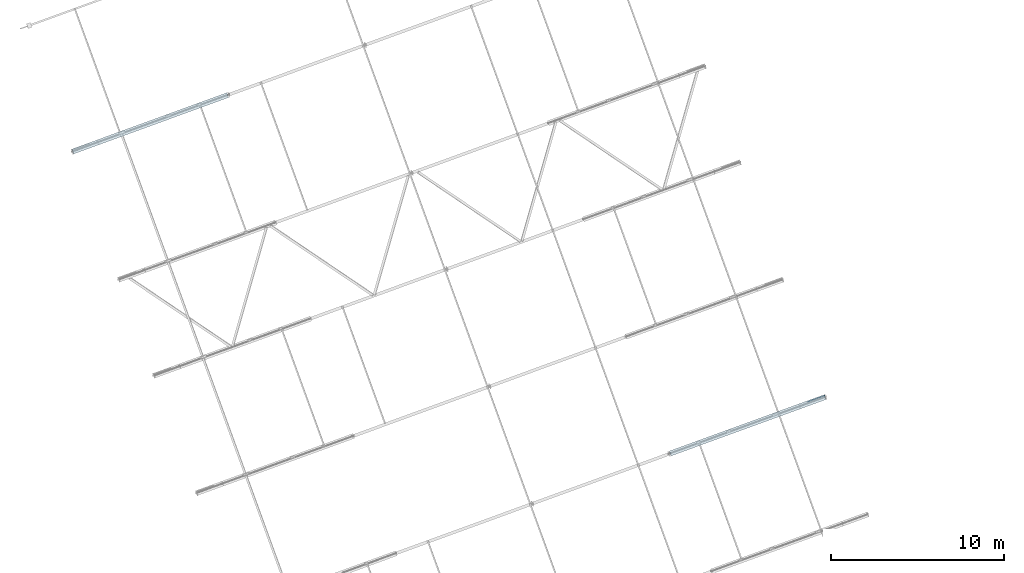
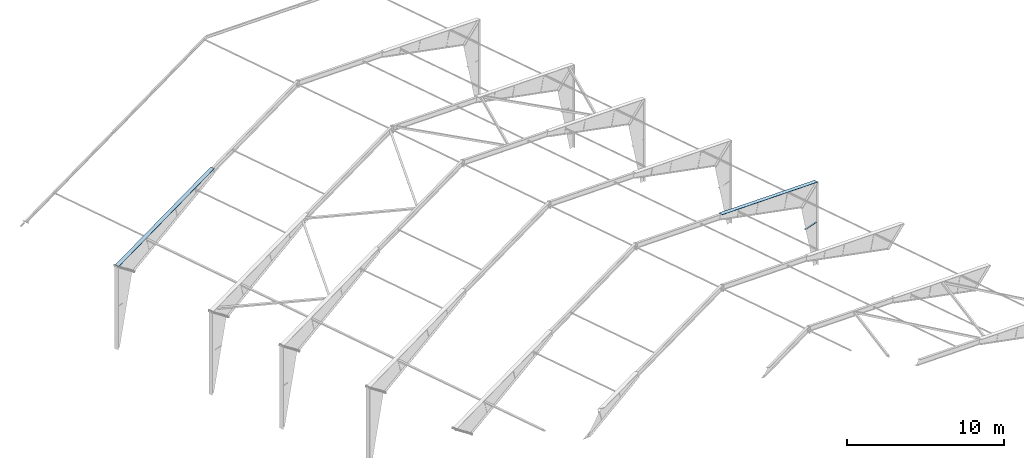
# One storey, part 13 of 17: 3 plates, 3 elements without a shape of their own.
"""IFC4 building model written with IfcOpenShell, lengths in millimetres."""

from ifc_helpers import new_model, si_unit, direction, frame, origin_with_axes, place, context, subcontext, project, spatial, polygons, material, element, aggregate, save


model = new_model("IFC4")

# Units and contexts
model_context = context("Model", 3, precision=0.2, world=frame((203566.813, 116264.779, 0.0), z_axis=(0.0, 0.0, 1.0), x_axis=(1.0, 0.0, 0.0)), true_north=direction((-0.9396138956, -0.3422363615)))
body_context = subcontext(model_context, "Body", "Model", "MODEL_VIEW")
ifc_project = project(units=[si_unit("LENGTHUNIT", "METRE", prefix="MILLI"), si_unit("AREAUNIT", "SQUARE_METRE"), si_unit("VOLUMEUNIT", "CUBIC_METRE"), si_unit("MASSUNIT", "GRAM", prefix="KILO"), si_unit("TIMEUNIT", "SECOND"), si_unit("PLANEANGLEUNIT", "RADIAN"), si_unit("SOLIDANGLEUNIT", "STERADIAN"), si_unit("THERMODYNAMICTEMPERATUREUNIT", "DEGREE_CELSIUS"), si_unit("LUMINOUSINTENSITYUNIT", "LUMEN")], contexts=[model_context])

# Site, building, storey
site_placement = place(None, origin_with_axes())
site = spatial("IfcSite", under=ifc_project, at=site_placement, Name="Nobelprojektet", CompositionType="ELEMENT")
building_placement = place(site_placement, origin_with_axes())
building = spatial("IfcBuilding", under=site, at=building_placement, Name="Hall B", CompositionType="ELEMENT")
storey_placement = place(building_placement, frame((0.0, 0.0, 136000.0), z_axis=(0.0, 0.0, 1.0), x_axis=(1.0, 0.0, 0.0)))
storey = spatial("IfcBuildingStorey", under=building, at=storey_placement, Name="Plan_2", CompositionType="ELEMENT", Elevation=136000.0)

# Assembly, plate
assembly_1_placement = place(storey_placement, frame((131023.48887, 166432.38903, 3682.47747), z_axis=(0.2431885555, 0.0885769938, -0.9659262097), x_axis=(0.9075966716, 0.3305755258, 0.2588206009)))
assembly_1 = element("IfcElementAssembly", 1, at=assembly_1_placement, inside=storey, Name="BEF. STOMME", PredefinedType="NOTDEFINED")
ifc_material = material(Name="S355J2", Category="STEEL")
plate_1_placement = place(assembly_1_placement, frame((9833.15093, 0.0, 0.0), z_axis=(-1.0, 0.0, 0.0), x_axis=(0.0, 0.0, 1.0)))
plate_1 = element("IfcPlate", 2, at=plate_1_placement, material=ifc_material, Name="BEF. STOMME", PredefinedType="NOTDEFINED", context=body_context, shape_type="Tessellation", body=[
    polygons([(-10.0, -149.99999, 9833.15093), (-10.0, 150.00001, 9833.15093), (-10.0, 150.0, 0.0), (-10.0, -150.0, 0.0), (10.0, 150.00001, 9833.15093), (10.0, 150.0, 0.0), (10.0, -149.99999, 9833.15093), (10.0, -150.0, 0.0)], [[[1, 2, 3, 4]], [[2, 5, 6, 3]], [[5, 7, 8, 6]], [[7, 1, 4, 8]], [[6, 8, 4, 3]], [[7, 5, 2, 1]]], closed=True),
])
aggregate(assembly_1, [plate_1])

assembly_2_placement = place(storey_placement, frame((174393.65841, 152270.0591, 3682.47528), z_axis=(0.2431885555, 0.0885769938, 0.9659262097), x_axis=(-0.9075966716, -0.3305755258, 0.2588206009)))
assembly_2 = element("IfcElementAssembly", 3, at=assembly_2_placement, inside=storey, Name="BEF. STOMME", PredefinedType="NOTDEFINED")
plate_2_placement = place(assembly_2_placement, frame((9833.15093, 0.0, 0.0), z_axis=(-1.0, 0.0, 0.0), x_axis=(0.0, 0.0, 1.0)))
plate_2 = element("IfcPlate", 4, at=plate_2_placement, material=ifc_material, Name="BEF. STOMME", PredefinedType="NOTDEFINED", context=body_context, shape_type="Tessellation", body=[
    polygons([(-10.0, -150.00001, 9833.15093), (-10.0, 149.99999, 9833.15093), (-10.0, 150.0, 0.0), (-10.0, -150.0, 0.0), (10.0, 149.99999, 9833.15093), (10.0, 150.0, 0.0), (10.0, -150.00001, 9833.15093), (10.0, -150.0, 0.0)], [[[1, 2, 3, 4]], [[2, 5, 6, 3]], [[5, 7, 8, 6]], [[7, 1, 4, 8]], [[6, 8, 4, 3]], [[7, 5, 2, 1]]], closed=True),
])
aggregate(assembly_2, [plate_2])

assembly_3_placement = place(storey_placement, frame((174407.40081, 152328.27789, 472.4858), z_axis=(0.0, 0.0, 1.0), x_axis=(-0.9396136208, -0.3422371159, 0.0)))
assembly_3 = element("IfcElementAssembly", 5, at=assembly_3_placement, inside=storey, Name="BEF. STOMME", PredefinedType="NOTDEFINED")
plate_3_placement = place(assembly_3_placement, frame((1065.0, 0.0, 0.0), z_axis=(-1.0, 0.0, 0.0), x_axis=(0.0, 0.0, 1.0)))
plate_3 = element("IfcPlate", 6, at=plate_3_placement, material=ifc_material, Name="BEF. STOMME", PredefinedType="NOTDEFINED", context=body_context, shape_type="Tessellation", body=[
    polygons([(-7.5, -50.0, 1065.0), (-7.5, 50.0, 1065.0), (-7.5, 50.0, 0.0), (-7.5, -50.0, 0.0), (7.5, 50.0, 1065.0), (7.5, 50.0, 0.0), (7.5, -50.0, 1065.0), (7.5, -50.0, 0.0)], [[[1, 2, 3, 4]], [[2, 5, 6, 3]], [[5, 7, 8, 6]], [[7, 1, 4, 8]], [[6, 8, 4, 3]], [[7, 5, 2, 1]]], closed=True),
])
aggregate(assembly_3, [plate_3])

save(model, "model.ifc")
